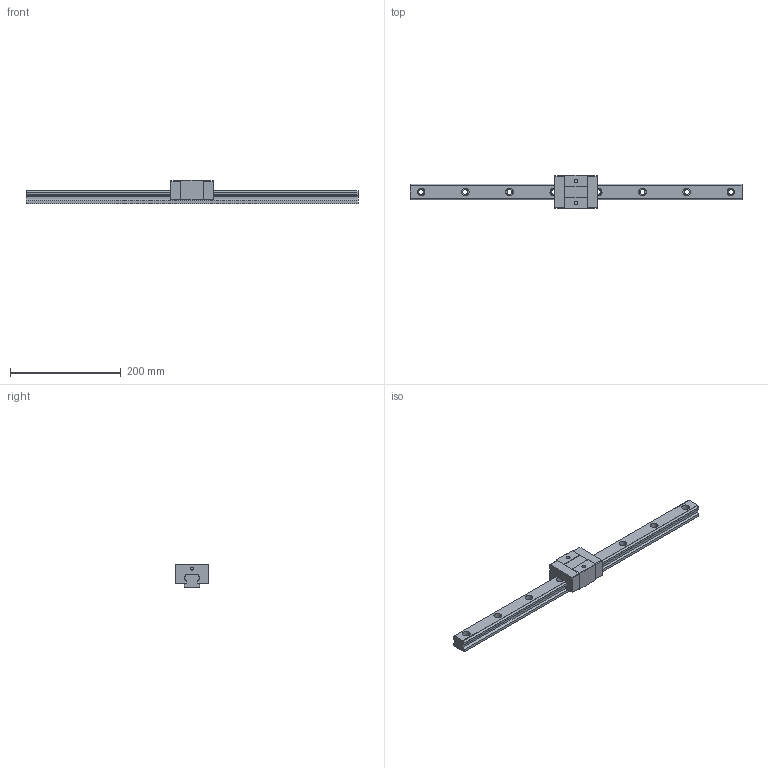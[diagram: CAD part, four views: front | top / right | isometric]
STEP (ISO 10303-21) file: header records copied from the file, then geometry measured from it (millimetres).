
FILE_DESCRIPTION (( 'STEP AP203' ), '1' );
FILE_NAME ('TRS30VS-ZN-§ï.STEP', '2023-08-31T07:58:54', ( '' ), ( '' ), 'SwSTEP 2.0', 'SolidWorks 2022', '' );
FILE_SCHEMA (( 'CONFIG_CONTROL_DESIGN' ));
Length unit declared in the file: millimetre
Products named in the file (1): TRS30VS-ZN-改
Bounding box: 600 x 60 x 42 mm (x, y, z)
Volume: 448748.7 mm3; surface area: 86933.4 mm2
Topology: 1 solids, 1 shells, 158 faces, 436 edges, 288 vertices
Faces by surface type: plane 82, cylinder 76
Entity records: 5185 total; most frequent: DIRECTION 910, CARTESIAN_POINT 883, ORIENTED_EDGE 872, EDGE_CURVE 436, AXIS2_PLACEMENT_3D 315, VERTEX_POINT 288, VECTOR 280, LINE 280
